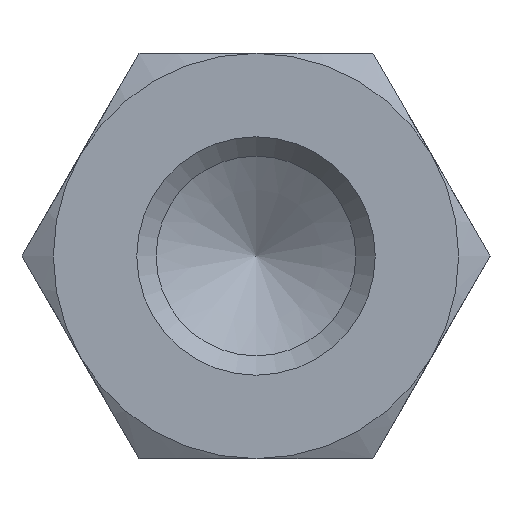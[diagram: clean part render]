
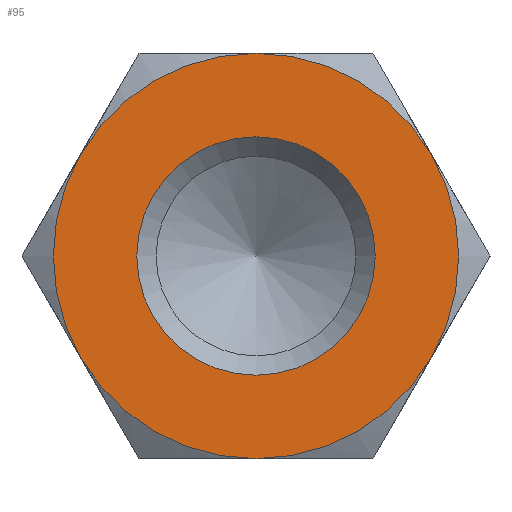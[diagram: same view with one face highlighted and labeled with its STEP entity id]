
A CAD part, left-side view. The second image highlights one B-rep face of the part: STEP entity #95.
In plain terms, the highlighted planar face has unit normal (-1, 0, 0).
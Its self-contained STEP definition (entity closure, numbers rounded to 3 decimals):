
#95 = ADVANCED_FACE( '', ( #147, #148 ), #149, .F. );
#147 = FACE_OUTER_BOUND( '', #206, .T. );
#148 = FACE_BOUND( '', #207, .T. );
#149 = PLANE( '', #208 );
#206 = EDGE_LOOP( '', ( #356, #357, #358, #359, #360, #361 ) );
#207 = EDGE_LOOP( '', ( #362 ) );
#208 = AXIS2_PLACEMENT_3D( '', #363, #364, #365 );
#356 = ORIENTED_EDGE( '', *, *, #440, .F. );
#357 = ORIENTED_EDGE( '', *, *, #425, .F. );
#358 = ORIENTED_EDGE( '', *, *, #441, .F. );
#359 = ORIENTED_EDGE( '', *, *, #437, .F. );
#360 = ORIENTED_EDGE( '', *, *, #442, .F. );
#361 = ORIENTED_EDGE( '', *, *, #443, .F. );
#362 = ORIENTED_EDGE( '', *, *, #439, .T. );
#363 = CARTESIAN_POINT( '', ( -60., 0., 0. ) );
#364 = DIRECTION( '', ( 1., 0., 0. ) );
#365 = DIRECTION( '', ( 0., 0., -1. ) );
#425 = EDGE_CURVE( '', #495, #493, #497, .T. );
#437 = EDGE_CURVE( '', #447, #506, #513, .T. );
#439 = EDGE_CURVE( '', #516, #516, #517, .T. );
#440 = EDGE_CURVE( '', #493, #486, #518, .T. );
#441 = EDGE_CURVE( '', #506, #495, #519, .T. );
#442 = EDGE_CURVE( '', #481, #447, #520, .T. );
#443 = EDGE_CURVE( '', #486, #481, #521, .T. );
#447 = VERTEX_POINT( '', #525 );
#481 = VERTEX_POINT( '', #607 );
#486 = VERTEX_POINT( '', #623 );
#493 = VERTEX_POINT( '', #650 );
#495 = VERTEX_POINT( '', #657 );
#497 = CIRCLE( '', #664, 8.5 );
#506 = VERTEX_POINT( '', #690 );
#513 = CIRCLE( '', #733, 8.5 );
#516 = VERTEX_POINT( '', #736 );
#517 = CIRCLE( '', #737, 5. );
#518 = CIRCLE( '', #738, 8.5 );
#519 = CIRCLE( '', #739, 8.5 );
#520 = CIRCLE( '', #740, 8.5 );
#521 = CIRCLE( '', #741, 8.5 );
#525 = CARTESIAN_POINT( '', ( -60., -7.361, 4.25 ) );
#607 = CARTESIAN_POINT( '', ( -60., 0., 8.5 ) );
#623 = CARTESIAN_POINT( '', ( -60., 7.361, 4.25 ) );
#650 = CARTESIAN_POINT( '', ( -60., 7.361, -4.25 ) );
#657 = CARTESIAN_POINT( '', ( -60., 0., -8.5 ) );
#664 = AXIS2_PLACEMENT_3D( '', #776, #777, #778 );
#690 = CARTESIAN_POINT( '', ( -60., -7.361, -4.25 ) );
#733 = AXIS2_PLACEMENT_3D( '', #781, #782, #783 );
#736 = CARTESIAN_POINT( '', ( -60., 0., -5. ) );
#737 = AXIS2_PLACEMENT_3D( '', #787, #788, #789 );
#738 = AXIS2_PLACEMENT_3D( '', #790, #791, #792 );
#739 = AXIS2_PLACEMENT_3D( '', #793, #794, #795 );
#740 = AXIS2_PLACEMENT_3D( '', #796, #797, #798 );
#741 = AXIS2_PLACEMENT_3D( '', #799, #800, #801 );
#776 = CARTESIAN_POINT( '', ( -60., 0., 0. ) );
#777 = DIRECTION( '', ( 1., 0., 0. ) );
#778 = DIRECTION( '', ( 0., 0., -1. ) );
#781 = CARTESIAN_POINT( '', ( -60., 0., 0. ) );
#782 = DIRECTION( '', ( 1., 0., 0. ) );
#783 = DIRECTION( '', ( 0., 0., -1. ) );
#787 = CARTESIAN_POINT( '', ( -60., 0., 0. ) );
#788 = DIRECTION( '', ( 1., 0., 0. ) );
#789 = DIRECTION( '', ( 0., 0., -1. ) );
#790 = CARTESIAN_POINT( '', ( -60., 0., 0. ) );
#791 = DIRECTION( '', ( 1., 0., 0. ) );
#792 = DIRECTION( '', ( 0., 0., -1. ) );
#793 = CARTESIAN_POINT( '', ( -60., 0., 0. ) );
#794 = DIRECTION( '', ( 1., 0., 0. ) );
#795 = DIRECTION( '', ( 0., 0., -1. ) );
#796 = CARTESIAN_POINT( '', ( -60., 0., 0. ) );
#797 = DIRECTION( '', ( 1., 0., 0. ) );
#798 = DIRECTION( '', ( 0., 0., -1. ) );
#799 = CARTESIAN_POINT( '', ( -60., 0., 0. ) );
#800 = DIRECTION( '', ( 1., 0., 0. ) );
#801 = DIRECTION( '', ( 0., 0., -1. ) );
